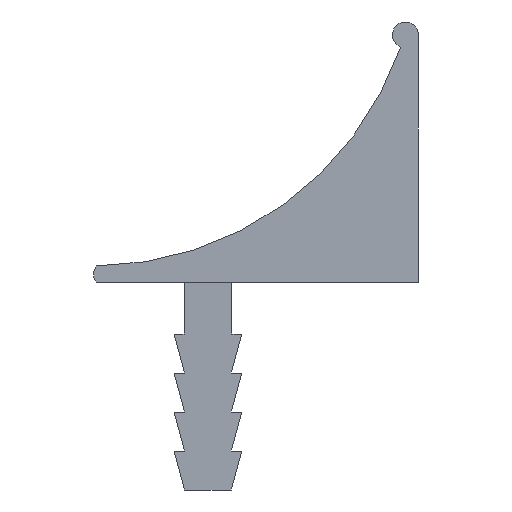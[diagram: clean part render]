
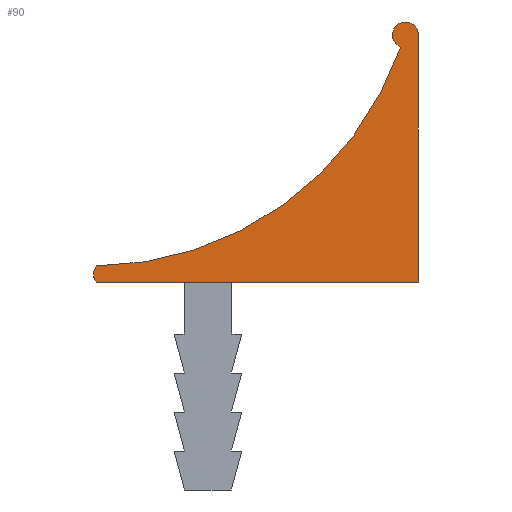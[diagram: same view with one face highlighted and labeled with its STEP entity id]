
A CAD part, left-side view. The second image highlights one B-rep face of the part: STEP entity #90.
In plain terms, the highlighted planar face has unit normal (-1, 0, 0).
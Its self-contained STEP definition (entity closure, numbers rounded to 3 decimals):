
#90 = ADVANCED_FACE( '', ( #183 ), #184, .F. );
#183 = FACE_OUTER_BOUND( '', #275, .T. );
#184 = PLANE( '', #276 );
#275 = EDGE_LOOP( '', ( #492, #493, #494, #495, #496 ) );
#276 = AXIS2_PLACEMENT_3D( '', #497, #498, #499 );
#492 = ORIENTED_EDGE( '', *, *, #656, .F. );
#493 = ORIENTED_EDGE( '', *, *, #602, .F. );
#494 = ORIENTED_EDGE( '', *, *, #585, .F. );
#495 = ORIENTED_EDGE( '', *, *, #580, .F. );
#496 = ORIENTED_EDGE( '', *, *, #657, .T. );
#497 = CARTESIAN_POINT( '', ( -30., 3.507, 21.117 ) );
#498 = DIRECTION( '', ( 1., 0., 0. ) );
#499 = DIRECTION( '', ( 0., 0., -1. ) );
#580 = EDGE_CURVE( '', #695, #696, #697, .T. );
#585 = EDGE_CURVE( '', #696, #704, #705, .T. );
#602 = EDGE_CURVE( '', #704, #733, #734, .T. );
#656 = EDGE_CURVE( '', #733, #808, #809, .T. );
#657 = EDGE_CURVE( '', #695, #808, #810, .T. );
#695 = VERTEX_POINT( '', #860 );
#696 = VERTEX_POINT( '', #861 );
#697 = CIRCLE( '', #862, 0.502 );
#704 = VERTEX_POINT( '', #871 );
#705 = LINE( '', #872, #873 );
#733 = VERTEX_POINT( '', #914 );
#734 = LINE( '', #915, #916 );
#808 = VERTEX_POINT( '', #1029 );
#809 = CIRCLE( '', #1030, 0.5 );
#810 = CIRCLE( '', #1031, 12.5 );
#860 = CARTESIAN_POINT( '', ( -30., -8.308, 17.036 ) );
#861 = CARTESIAN_POINT( '', ( -30., -8.998, 17.501 ) );
#862 = AXIS2_PLACEMENT_3D( '', #1054, #1055, #1056 );
#871 = CARTESIAN_POINT( '', ( -30., -8.998, 8. ) );
#872 = CARTESIAN_POINT( '', ( -30., -8.998, 17.501 ) );
#873 = VECTOR( '', #1062, 1000. );
#914 = CARTESIAN_POINT( '', ( -30., 3.402, 8. ) );
#915 = CARTESIAN_POINT( '', ( -30., -8.998, 8. ) );
#916 = VECTOR( '', #1076, 1000. );
#1029 = CARTESIAN_POINT( '', ( -30., 3.386, 8.617 ) );
#1030 = AXIS2_PLACEMENT_3D( '', #1122, #1123, #1124 );
#1031 = AXIS2_PLACEMENT_3D( '', #1125, #1126, #1127 );
#1054 = CARTESIAN_POINT( '', ( -30., -8.496, 17.501 ) );
#1055 = DIRECTION( '', ( 1., 0., 0. ) );
#1056 = DIRECTION( '', ( 0., 0., -1. ) );
#1062 = DIRECTION( '', ( 0., 0., -1. ) );
#1076 = DIRECTION( '', ( 0., 1., 0. ) );
#1122 = CARTESIAN_POINT( '', ( -30., 3.001, 8.299 ) );
#1123 = DIRECTION( '', ( 1., 0., 0. ) );
#1124 = DIRECTION( '', ( 0., 0., -1. ) );
#1125 = CARTESIAN_POINT( '', ( -30., 3.507, 21.117 ) );
#1126 = DIRECTION( '', ( 1., 0., 0. ) );
#1127 = DIRECTION( '', ( 0., 0., -1. ) );
